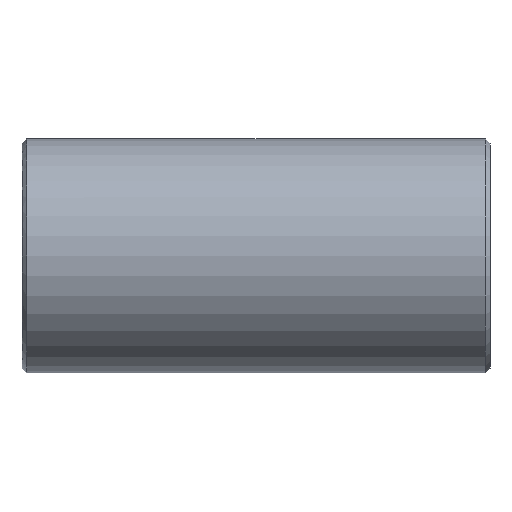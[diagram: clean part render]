
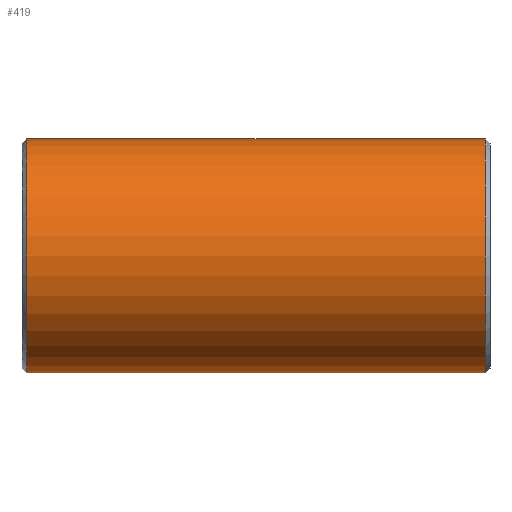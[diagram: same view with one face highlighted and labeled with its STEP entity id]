
A CAD part, front view. The second image highlights one B-rep face of the part: STEP entity #419.
In plain terms, the highlighted cylindrical face has radius 24 mm (diameter 48 mm), a partial arc.
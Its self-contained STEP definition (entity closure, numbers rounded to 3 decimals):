
#231=CARTESIAN_POINT('Vertex',(1.,0.,-24.)) ;
#238=CARTESIAN_POINT('Vertex',(1.,0.,24.)) ;
#267=CARTESIAN_POINT('Axis2P3D Location',(1.,0.,0.)) ;
#271=CARTESIAN_POINT('Vertex',(1.,-24.,0.)) ;
#274=CARTESIAN_POINT('Axis2P3D Location',(1.,0.,0.)) ;
#359=CARTESIAN_POINT('Line Origine',(96.,0.,24.)) ;
#363=CARTESIAN_POINT('Vertex',(95.,0.,24.)) ;
#377=CARTESIAN_POINT('Vertex',(95.,0.,-24.)) ;
#380=CARTESIAN_POINT('Line Origine',(96.,0.,-24.)) ;
#394=CARTESIAN_POINT('Axis2P3D Location',(96.,0.,0.)) ;
#399=CARTESIAN_POINT('Axis2P3D Location',(95.,0.,0.)) ;
#403=CARTESIAN_POINT('Vertex',(95.,-24.,0.)) ;
#406=CARTESIAN_POINT('Axis2P3D Location',(95.,0.,0.)) ;
#268=DIRECTION('Axis2P3D Direction',(1.,0.,-0.)) ;
#275=DIRECTION('Axis2P3D Direction',(1.,0.,-0.)) ;
#360=DIRECTION('Vector Direction',(-1.,0.,0.)) ;
#381=DIRECTION('Vector Direction',(-1.,0.,0.)) ;
#395=DIRECTION('Axis2P3D Direction',(-1.,-0.,-0.)) ;
#396=DIRECTION('Axis2P3D XDirection',(0.,0.,-1.)) ;
#400=DIRECTION('Axis2P3D Direction',(-1.,-0.,-0.)) ;
#407=DIRECTION('Axis2P3D Direction',(-1.,-0.,-0.)) ;
#269=AXIS2_PLACEMENT_3D('Circle Axis2P3D',#267,#268,$) ;
#276=AXIS2_PLACEMENT_3D('Circle Axis2P3D',#274,#275,$) ;
#397=AXIS2_PLACEMENT_3D('Cylinder Axis2P3D',#394,#395,#396) ;
#401=AXIS2_PLACEMENT_3D('Circle Axis2P3D',#399,#400,$) ;
#408=AXIS2_PLACEMENT_3D('Circle Axis2P3D',#406,#407,$) ;
#412=ORIENTED_EDGE('',*,*,#384,.T.) ;
#413=ORIENTED_EDGE('',*,*,#405,.F.) ;
#414=ORIENTED_EDGE('',*,*,#410,.F.) ;
#415=ORIENTED_EDGE('',*,*,#365,.T.) ;
#416=ORIENTED_EDGE('',*,*,#278,.T.) ;
#417=ORIENTED_EDGE('',*,*,#273,.T.) ;
#361=VECTOR('Line Direction',#360,1.) ;
#382=VECTOR('Line Direction',#381,1.) ;
#419=ADVANCED_FACE('352-40X96',(#418),#398,.T.) ;
#270=CIRCLE('generated circle',#269,24.) ;
#277=CIRCLE('generated circle',#276,24.) ;
#402=CIRCLE('generated circle',#401,24.) ;
#409=CIRCLE('generated circle',#408,24.) ;
#398=CYLINDRICAL_SURFACE('generated cylinder',#397,24.) ;
#273=EDGE_CURVE('',#272,#232,#270,.T.) ;
#278=EDGE_CURVE('',#239,#272,#277,.T.) ;
#365=EDGE_CURVE('',#364,#239,#362,.T.) ;
#384=EDGE_CURVE('',#232,#378,#383,.F.) ;
#405=EDGE_CURVE('',#404,#378,#402,.F.) ;
#410=EDGE_CURVE('',#364,#404,#409,.F.) ;
#411=EDGE_LOOP('',(#412,#413,#414,#415,#416,#417)) ;
#418=FACE_OUTER_BOUND('',#411,.T.) ;
#362=LINE('Line',#359,#361) ;
#383=LINE('Line',#380,#382) ;
#232=VERTEX_POINT('',#231) ;
#239=VERTEX_POINT('',#238) ;
#272=VERTEX_POINT('',#271) ;
#364=VERTEX_POINT('',#363) ;
#378=VERTEX_POINT('',#377) ;
#404=VERTEX_POINT('',#403) ;
